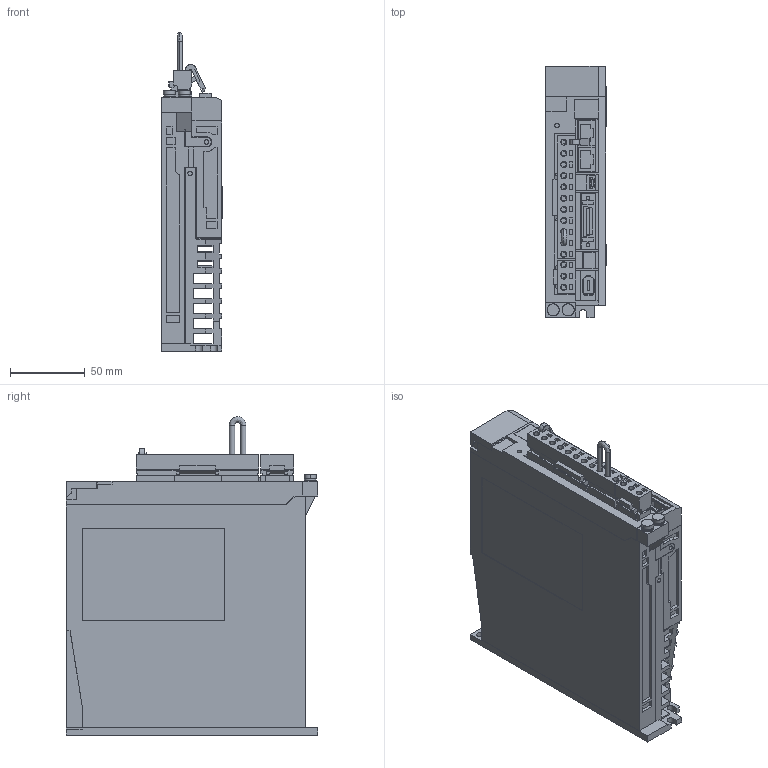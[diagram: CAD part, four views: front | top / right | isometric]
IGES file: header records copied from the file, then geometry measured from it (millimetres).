
Start section: SolidWorks IGES file using analytic representation for surfaces
Global section: file name: D:\YASKAWA\sgdxs_2r8a__a.IGS; native system: SolidWorks 2006 by SolidWorks Corporation; preprocessor: SolidWorks 2006 by SolidWorks Corporation; author: yamanouchi; date: 210209.205702; units: millimetre
Bounding box: 40.5 x 168 x 213 mm (x, y, z)
Surface area: 168679.5 mm2 (no closed solid volume)
Topology: 0 solids, 0 shells, 1615 faces, 12080 edges, 12080 vertices
Faces by surface type: bspline 1479, revolution 136
